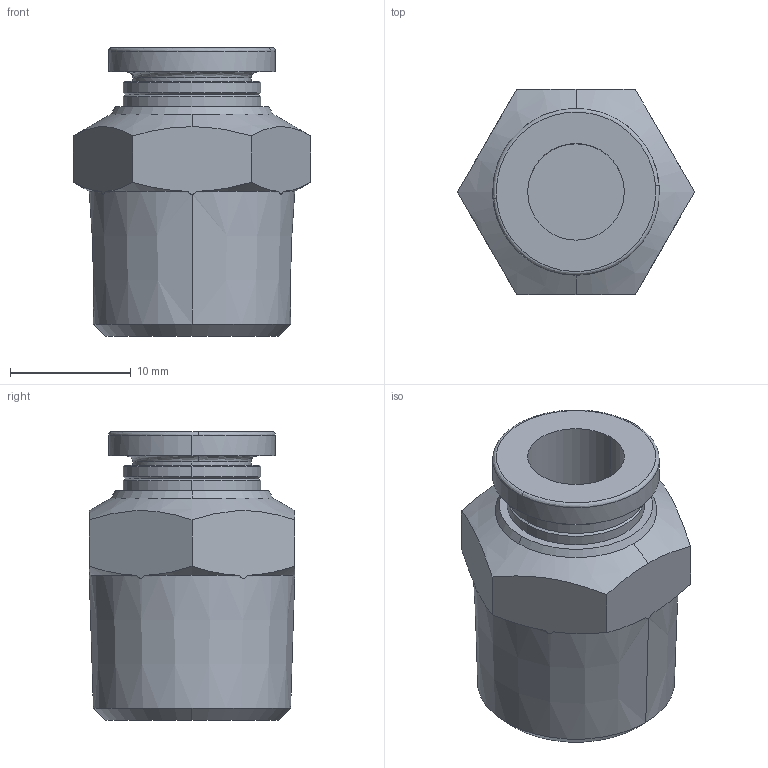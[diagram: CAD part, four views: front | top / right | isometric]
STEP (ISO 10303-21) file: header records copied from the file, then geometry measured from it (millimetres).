
FILE_DESCRIPTION (( 'STEP AP214' ), '1' );
FILE_NAME ('APC8-03.STEP', '2019-12-05T06:18:56', ( '微软用户' ), ( '微软中国' ), 'SwSTEP 2.0', 'SolidWorks 2016', '' );
FILE_SCHEMA (( 'AUTOMOTIVE_DESIGN' ));
Length unit declared in the file: millimetre
Products named in the file (1): APC8-03
Bounding box: 19.63 x 17 x 23.9 mm (x, y, z)
Volume: 3844.8 mm3; surface area: 2183.2 mm2
Topology: 1 solids, 1 shells, 49 faces, 124 edges, 81 vertices
Faces by surface type: cone 23, plane 12, cylinder 10, bspline 4
Entity records: 1861 total; most frequent: CARTESIAN_POINT 681, ORIENTED_EDGE 248, DIRECTION 235, EDGE_CURVE 124, AXIS2_PLACEMENT_3D 101, VERTEX_POINT 81, CIRCLE 55, EDGE_LOOP 53
